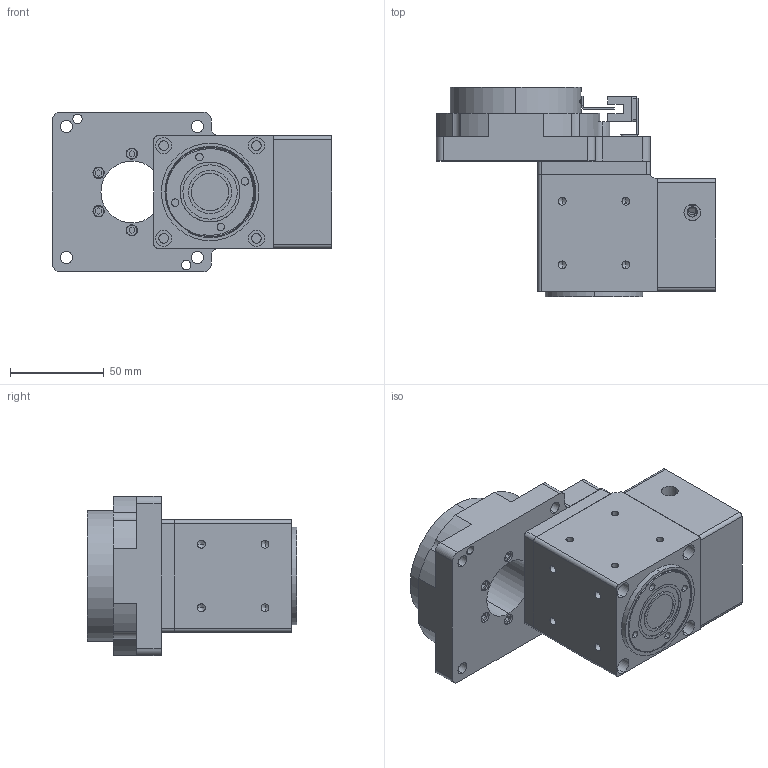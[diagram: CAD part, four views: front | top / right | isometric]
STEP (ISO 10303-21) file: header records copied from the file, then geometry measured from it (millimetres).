
FILE_DESCRIPTION(('Open CASCADE Model'),'2;1');
FILE_NAME('Open CASCADE Shape Model','2026-10-11T03:03:15',('Author'),( 'Open CASCADE'),'Open CASCADE STEP processor 7.8','Open CASCADE 7.8' ,'Unknown');
FILE_SCHEMA(('AUTOMOTIVE_DESIGN { 1 0 10303 214 1 1 1 1 }'));
Length unit declared in the file: millimetre
Products named in the file (3): NTFA85-R-10-PVFD60-B2(配57步进 输入8-38.1-47.14-M4); NTFA85-R-10-PVFD60-B2(配57步进 输入8-38.1-47.14-M4)-01; NTFA85-R-10-PVFD60-B2(配57步进 输入8-38.1-47.14-M4)-02
Assembly tree (2 placements, depth 2):
  NTFA85-R-10-PVFD60-B2(配57步进 输入8-38.1-47.14-M4)
    NTFA85-R-10-PVFD60-B2(配57步进 输入8-38.1-47.14-M4)-01
    NTFA85-R-10-PVFD60-B2(配57步进 输入8-38.1-47.14-M4)-02
Bounding box: 149.3 x 112 x 85 mm (x, y, z)
Volume: 486558.7 mm3; surface area: 161943.1 mm2
Topology: 17 solids, 25 shells, 1836 faces, 5398 edges, 3521 vertices
Faces by surface type: plane 942, cylinder 405, bspline 304, cone 185
Entity records: 218631 total; most frequent: CARTESIAN_POINT 123837, DIRECTION 14376, ORIENTED_EDGE 10656, PCURVE 10656, DEFINITIONAL_REPRESENTATION 10656, LINE 8227, VECTOR 8227, EDGE_CURVE 5328
